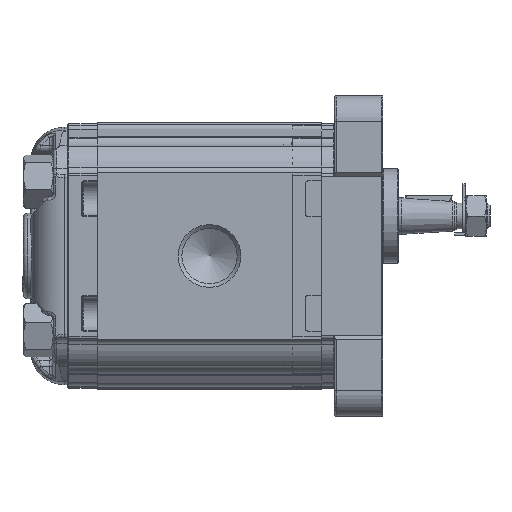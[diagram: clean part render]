
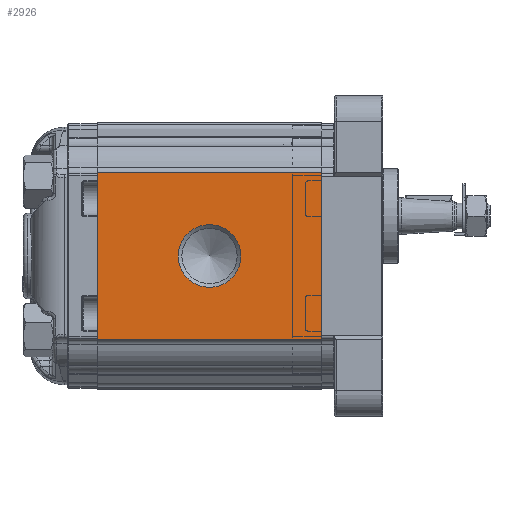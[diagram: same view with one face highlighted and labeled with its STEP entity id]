
A CAD part, left-side view. The second image highlights one B-rep face of the part: STEP entity #2926.
In plain terms, the highlighted planar face has unit normal (-1, 0, 0).
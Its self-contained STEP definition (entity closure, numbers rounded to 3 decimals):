
#2926 = ADVANCED_FACE( '', ( #7459, #7460 ), #7461, .T. );
#7459 = FACE_BOUND( '', #14662, .T. );
#7460 = FACE_OUTER_BOUND( '', #14663, .T. );
#7461 = PLANE( '', #14664 );
#14662 = EDGE_LOOP( '', ( #25915 ) );
#14663 = EDGE_LOOP( '', ( #25916, #25917, #25918, #25919 ) );
#14664 = AXIS2_PLACEMENT_3D( '', #25920, #25921, #25922 );
#25915 = ORIENTED_EDGE( '', *, *, #40969, .F. );
#25916 = ORIENTED_EDGE( '', *, *, #42056, .T. );
#25917 = ORIENTED_EDGE( '', *, *, #42057, .T. );
#25918 = ORIENTED_EDGE( '', *, *, #42058, .T. );
#25919 = ORIENTED_EDGE( '', *, *, #42059, .F. );
#25920 = CARTESIAN_POINT( '', ( -33., 132.376, 48.138 ) );
#25921 = DIRECTION( '', ( -1., 0., 0. ) );
#25922 = DIRECTION( '', ( 0., 0., 1. ) );
#40969 = EDGE_CURVE( '', #49029, #49029, #49030, .F. );
#42056 = EDGE_CURVE( '', #50795, #50796, #50797, .T. );
#42057 = EDGE_CURVE( '', #50796, #50798, #50799, .T. );
#42058 = EDGE_CURVE( '', #50798, #50800, #50801, .F. );
#42059 = EDGE_CURVE( '', #50795, #50800, #50802, .T. );
#49029 = VERTEX_POINT( '', #61898 );
#49030 = CIRCLE( '', #61899, 8.475 );
#50795 = VERTEX_POINT( '', #65110 );
#50796 = VERTEX_POINT( '', #65111 );
#50797 = LINE( '', #65112, #65113 );
#50798 = VERTEX_POINT( '', #65114 );
#50799 = LINE( '', #65115, #65116 );
#50800 = VERTEX_POINT( '', #65117 );
#50801 = LINE( '', #65118, #65119 );
#50802 = LINE( '', #65120, #65121 );
#61898 = CARTESIAN_POINT( '', ( -33., 30.25, -8.475 ) );
#61899 = AXIS2_PLACEMENT_3D( '', #77555, #77556, #77557 );
#65110 = CARTESIAN_POINT( '', ( -33., 60.5, -22.5 ) );
#65111 = CARTESIAN_POINT( '', ( -33., 0., -22.5 ) );
#65112 = CARTESIAN_POINT( '', ( -33., 60.5, -22.5 ) );
#65113 = VECTOR( '', #78911, 1000. );
#65114 = CARTESIAN_POINT( '', ( -33., 0., 22.5 ) );
#65115 = CARTESIAN_POINT( '', ( -33., 0., -21.711 ) );
#65116 = VECTOR( '', #78912, 1000. );
#65117 = CARTESIAN_POINT( '', ( -33., 60.5, 22.5 ) );
#65118 = CARTESIAN_POINT( '', ( -33., 60.5, 22.5 ) );
#65119 = VECTOR( '', #78913, 1000. );
#65120 = CARTESIAN_POINT( '', ( -33., 60.5, -21.711 ) );
#65121 = VECTOR( '', #78914, 1000. );
#77555 = CARTESIAN_POINT( '', ( -33., 30.25, 0. ) );
#77556 = DIRECTION( '', ( 1., 0., 0. ) );
#77557 = DIRECTION( '', ( 0., 0., -1. ) );
#78911 = DIRECTION( '', ( 0., -1., 0. ) );
#78912 = DIRECTION( '', ( 0., 0., 1. ) );
#78913 = DIRECTION( '', ( 0., -1., 0. ) );
#78914 = DIRECTION( '', ( 0., 0., 1. ) );
